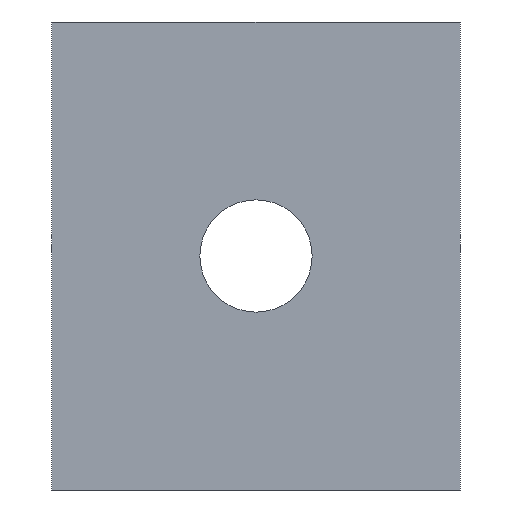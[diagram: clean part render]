
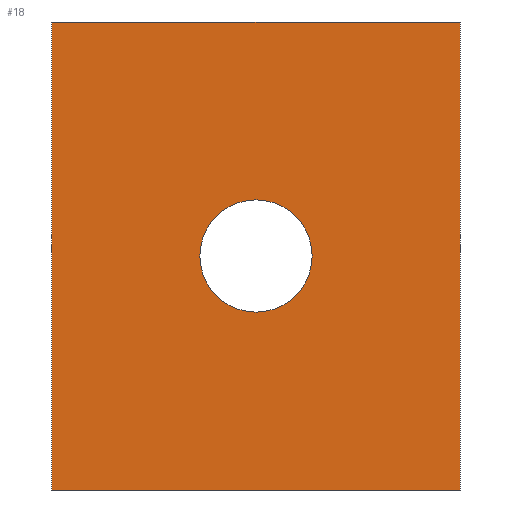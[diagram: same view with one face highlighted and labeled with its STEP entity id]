
A CAD part, front view. The second image highlights one B-rep face of the part: STEP entity #18.
In plain terms, the highlighted planar face has unit normal (0, -1, 0).
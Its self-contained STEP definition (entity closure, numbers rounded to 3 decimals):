
#3 = VERTEX_POINT ( 'NONE', #199 ) ;
#8 = VECTOR ( 'NONE', #71, 1000. ) ;
#9 = PLANE ( 'NONE',  #31 ) ;
#14 = CARTESIAN_POINT ( 'NONE',  ( 0., 0., 0. ) ) ;
#15 = EDGE_LOOP ( 'NONE', ( #198, #245, #117, #25 ) ) ;
#18 = ADVANCED_FACE ( 'NONE', ( #152, #32 ), #9, .T. ) ;
#25 = ORIENTED_EDGE ( 'NONE', *, *, #118, .F. ) ;
#26 = CARTESIAN_POINT ( 'NONE',  ( -171., 0., -196. ) ) ;
#31 = AXIS2_PLACEMENT_3D ( 'NONE', #155, #177, #42 ) ;
#32 = FACE_OUTER_BOUND ( 'NONE', #15, .T. ) ;
#42 = DIRECTION ( 'NONE',  ( 0., 0., -1. ) ) ;
#44 = CIRCLE ( 'NONE', #66, 47. ) ;
#46 = VERTEX_POINT ( 'NONE', #112 ) ;
#52 = DIRECTION ( 'NONE',  ( 0., 0., -1. ) ) ;
#53 = LINE ( 'NONE', #26, #224 ) ;
#54 = CARTESIAN_POINT ( 'NONE',  ( 0., 0., 0. ) ) ;
#66 = AXIS2_PLACEMENT_3D ( 'NONE', #14, #233, #123 ) ;
#69 = AXIS2_PLACEMENT_3D ( 'NONE', #54, #252, #185 ) ;
#71 = DIRECTION ( 'NONE',  ( 0., 0., 1. ) ) ;
#74 = LINE ( 'NONE', #145, #150 ) ;
#77 = CARTESIAN_POINT ( 'NONE',  ( 171., 0., 196. ) ) ;
#96 = LINE ( 'NONE', #97, #234 ) ;
#97 = CARTESIAN_POINT ( 'NONE',  ( 171., 0., 196. ) ) ;
#105 = EDGE_CURVE ( 'NONE', #215, #275, #158, .T. ) ;
#112 = CARTESIAN_POINT ( 'NONE',  ( 0., 0., 47. ) ) ;
#117 = ORIENTED_EDGE ( 'NONE', *, *, #105, .F. ) ;
#118 = EDGE_CURVE ( 'NONE', #135, #215, #53, .T. ) ;
#122 = ORIENTED_EDGE ( 'NONE', *, *, #220, .T. ) ;
#123 = DIRECTION ( 'NONE',  ( 0., 0., 1. ) ) ;
#135 = VERTEX_POINT ( 'NONE', #206 ) ;
#145 = CARTESIAN_POINT ( 'NONE',  ( -171., 0., 196. ) ) ;
#150 = VECTOR ( 'NONE', #271, 1000. ) ;
#152 = FACE_BOUND ( 'NONE', #260, .T. ) ;
#155 = CARTESIAN_POINT ( 'NONE',  ( 0., 0., 0. ) ) ;
#158 = LINE ( 'NONE', #203, #8 ) ;
#163 = EDGE_CURVE ( 'NONE', #265, #135, #96, .T. ) ;
#177 = DIRECTION ( 'NONE',  ( 0., -1., 0. ) ) ;
#185 = DIRECTION ( 'NONE',  ( 0., 0., 1. ) ) ;
#186 = EDGE_CURVE ( 'NONE', #3, #46, #44, .T. ) ;
#198 = ORIENTED_EDGE ( 'NONE', *, *, #163, .F. ) ;
#199 = CARTESIAN_POINT ( 'NONE',  ( 0., 0., -47. ) ) ;
#200 = CIRCLE ( 'NONE', #69, 47. ) ;
#202 = DIRECTION ( 'NONE',  ( -1., 0., 0. ) ) ;
#203 = CARTESIAN_POINT ( 'NONE',  ( -171., 0., 196. ) ) ;
#206 = CARTESIAN_POINT ( 'NONE',  ( 171., 0., -196. ) ) ;
#209 = EDGE_CURVE ( 'NONE', #275, #265, #74, .T. ) ;
#211 = CARTESIAN_POINT ( 'NONE',  ( -171., 0., 196. ) ) ;
#215 = VERTEX_POINT ( 'NONE', #273 ) ;
#220 = EDGE_CURVE ( 'NONE', #46, #3, #200, .T. ) ;
#224 = VECTOR ( 'NONE', #202, 1000. ) ;
#233 = DIRECTION ( 'NONE',  ( 0., 1., 0. ) ) ;
#234 = VECTOR ( 'NONE', #52, 1000. ) ;
#235 = ORIENTED_EDGE ( 'NONE', *, *, #186, .T. ) ;
#245 = ORIENTED_EDGE ( 'NONE', *, *, #209, .F. ) ;
#252 = DIRECTION ( 'NONE',  ( 0., 1., 0. ) ) ;
#260 = EDGE_LOOP ( 'NONE', ( #122, #235 ) ) ;
#265 = VERTEX_POINT ( 'NONE', #77 ) ;
#271 = DIRECTION ( 'NONE',  ( 1., 0., 0. ) ) ;
#273 = CARTESIAN_POINT ( 'NONE',  ( -171., 0., -196. ) ) ;
#275 = VERTEX_POINT ( 'NONE', #211 ) ;
